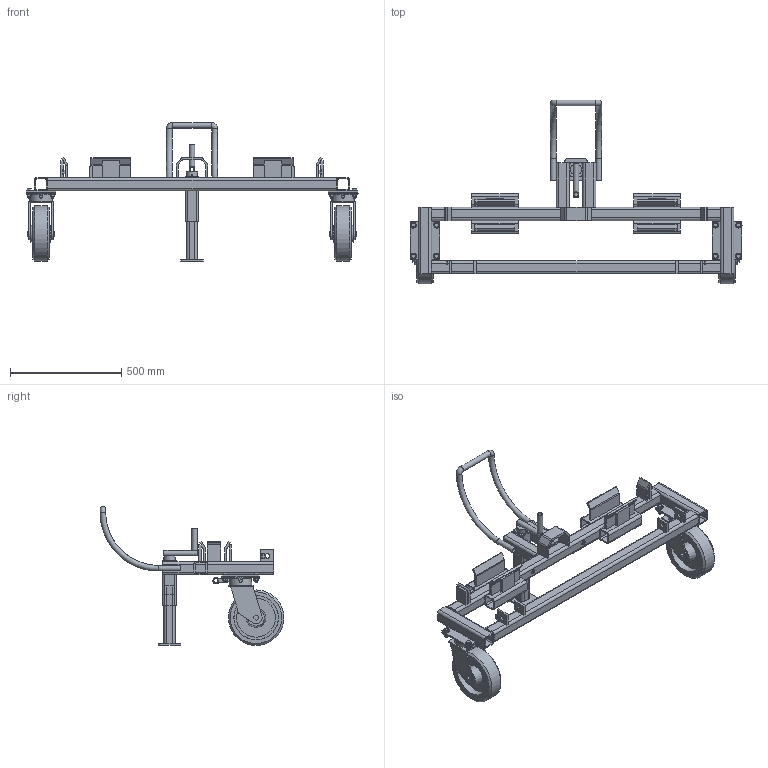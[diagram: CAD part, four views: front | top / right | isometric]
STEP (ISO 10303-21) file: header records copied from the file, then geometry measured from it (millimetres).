
FILE_DESCRIPTION((''),'2;1');
FILE_NAME('C:\Donnees\Projet\Chariot Garde corps MAN EDF\Projet final afpa\DOC protech\5000\inventor\etude\traverse avec cadre + petit manche\Traverse.stp','2010-07-01T07:55:50',('twerion'),(''),'Autodesk Inventor 11','Autodesk Inventor 11','');
FILE_SCHEMA(('AUTOMOTIVE_DESIGN { 1 0 10303 214 1 1 1 1 }'));
Length unit declared in the file: millimetre
Products named in the file (33): Traverse; DIN EN 10210-2 60 x 60 x 6 - 1300; roulette_hp6ba250-23b; roulette_hp6lc250-23b_02; roulette_hp6lc250-23b_01_1; platine; plaque brochage COTE; DIN EN 10210-2 60 x 60 x 4 - 200; DIN EN 10210-2 50 x 50 x 6 - 220; platine 60x60; platine 50x50; Platine stabilité; Tige filetee; NF E 25-514 Z24 - 160 HV; Rondelle; NF EN 24032 M12; NF E 25-514 M12 - 160 HV; ISO 4017 M12 x 35; DIN EN ISO 8752 6 x 50  N; CSN 426750(B) 25-150; DIN EN 10210-2 60 x 60 x 6 - 300; DIN EN 10210-2 60 x 60 x 6 - 200; petit manche; CSN 426750(B) 25-100; DIN EN 10210-2 60 x 60 x 6 - 210; tole guide pliée; plaque brochage COTE 2 (un peu + longue); butée broche; tole guide pliée complete; tole guide pliée courte; DIN EN 10278 60 x 10 - 75; DIN EN 10278 80 x 10 - 75
Assembly tree (79 placements, depth 3):
  Traverse
    DIN EN 10210-2 60 x 60 x 6 - 1300
    roulette_hp6ba250-23b  x2
      roulette_hp6lc250-23b_02
      roulette_hp6lc250-23b_01_1
    platine  x2
    plaque brochage COTE  x2
    DIN EN 10210-2 60 x 60 x 4 - 200
    DIN EN 10210-2 50 x 50 x 6 - 220
    platine 60x60
    platine 50x50
    Platine stabilité
    Tige filetee
    NF E 25-514 Z24 - 160 HV
    Rondelle
    NF EN 24032 M12  x8
    NF E 25-514 M12 - 160 HV  x16
    ISO 4017 M12 x 35  x8
    DIN EN ISO 8752 6 x 50  N
    CSN 426750(B) 25-150
    DIN EN 10210-2 60 x 60 x 6 - 300  x2
    DIN EN 10210-2 60 x 60 x 6 - 1300
    DIN EN 10210-2 60 x 60 x 6 - 200  x2
    petit manche
    CSN 426750(B) 25-100
    DIN EN 10210-2 60 x 60 x 6 - 210  x4
    tole guide pliée  x4
    plaque brochage COTE 2 (un peu + longue)  x2
    butée broche  x2
    tole guide pliée complete
    tole guide pliée courte  x2
    DIN EN 10278 60 x 10 - 75  x2
    DIN EN 10278 80 x 10 - 75  x4
Bounding box: 1495 x 827.5 x 625.52 mm (x, y, z)
Volume: 14321306.8 mm3; surface area: 3458007.5 mm2
Topology: 79 solids, 79 shells, 1130 faces, 2594 edges, 1675 vertices
Faces by surface type: plane 635, cylinder 258, cone 197, bspline 30, torus 10
Full cylindrical faces by diameter (mm): 4.2 x4, 6 x3, 12 x8, 13 x16, 14 x8, 14.4 x2, 16.63 x8, 19 x5, 24 x2, 25 x6, 27 x16, 42.88 x4, 45 x1, 50 x1, 102 x2, 175 x4, 250 x2
Entity records: 15299 total; most frequent: CARTESIAN_POINT 3413, DIRECTION 2432, ORIENTED_EDGE 2056, EDGE_CURVE 1028, AXIS2_PLACEMENT_3D 901, VERTEX_POINT 720, EDGE_LOOP 630, VECTOR 630
